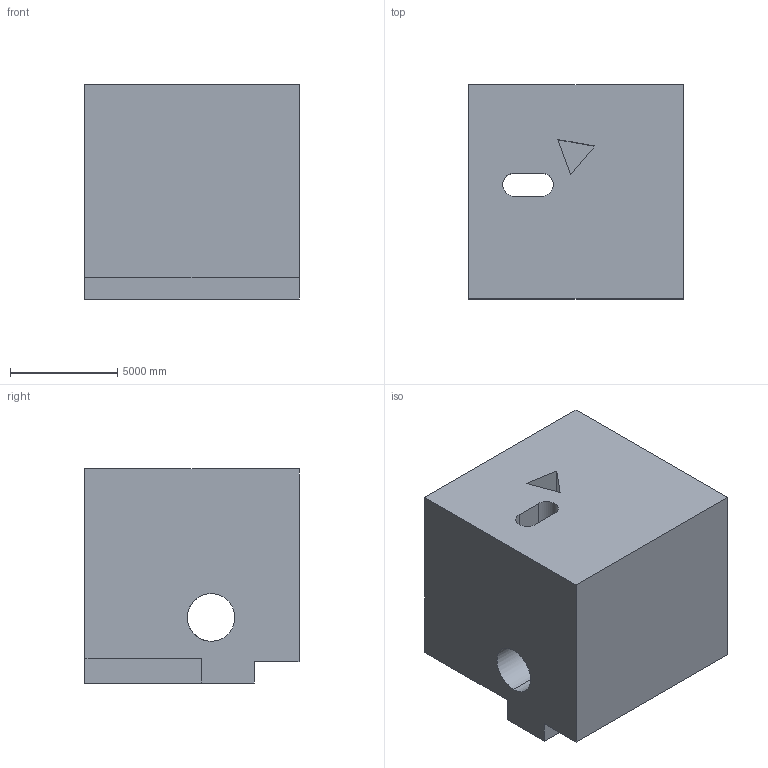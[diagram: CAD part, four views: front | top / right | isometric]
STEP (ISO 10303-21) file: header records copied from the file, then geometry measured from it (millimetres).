
FILE_DESCRIPTION (( 'STEP AP203' ), '1' );
FILE_NAME ('343.STEP', '2022-09-07T13:01:50', ( 'user' ), ( '' ), 'SwSTEP 2.0', 'SolidWorks 2021', '' );
FILE_SCHEMA (( 'CONFIG_CONTROL_DESIGN' ));
Length unit declared in the file: centimetre
Products named in the file (1): 343
Bounding box: 10000 x 10000 x 10000 mm (x, y, z)
Volume: 880172445725.3 mm3; surface area: 764718472.7 mm2
Topology: 1 solids, 1 shells, 36 faces, 96 edges, 64 vertices
Faces by surface type: plane 25, cylinder 11
Entity records: 1505 total; most frequent: CARTESIAN_POINT 493, ORIENTED_EDGE 192, DIRECTION 192, EDGE_CURVE 96, VECTOR 70, LINE 70, VERTEX_POINT 64, AXIS2_PLACEMENT_3D 61
